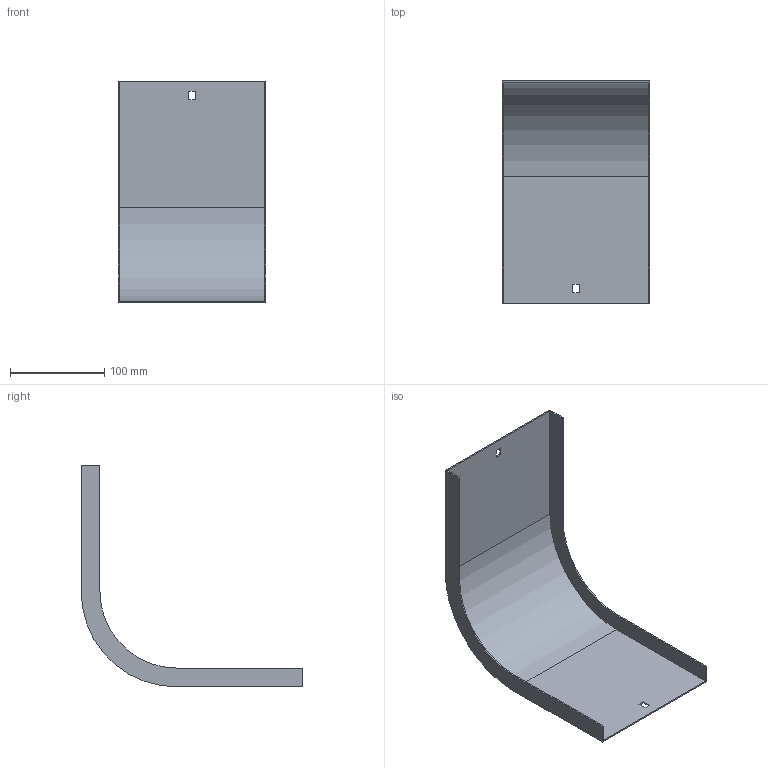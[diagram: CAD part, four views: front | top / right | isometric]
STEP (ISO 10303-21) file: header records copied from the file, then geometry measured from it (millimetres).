
FILE_DESCRIPTION (( 'STEP AP214' ), '1' );
FILE_NAME ('33G1D150.step', '2025-02-21T12:43:44', ( '' ), ( '' ), 'SwSTEP 2.0', 'SolidWorks 2023', '' );
FILE_SCHEMA (( 'AUTOMOTIVE_DESIGN' ));
Length unit declared in the file: millimetre
Products named in the file (1): 33G1D150
Bounding box: 157 x 235.5 x 235.5 mm (x, y, z)
Volume: 122993.7 mm3; surface area: 165858.2 mm2
Topology: 1 solids, 1 shells, 26 faces, 72 edges, 48 vertices
Faces by surface type: plane 22, cylinder 4
Entity records: 855 total; most frequent: CARTESIAN_POINT 147, ORIENTED_EDGE 144, DIRECTION 134, EDGE_CURVE 72, LINE 64, VECTOR 64, VERTEX_POINT 48, AXIS2_PLACEMENT_3D 35
